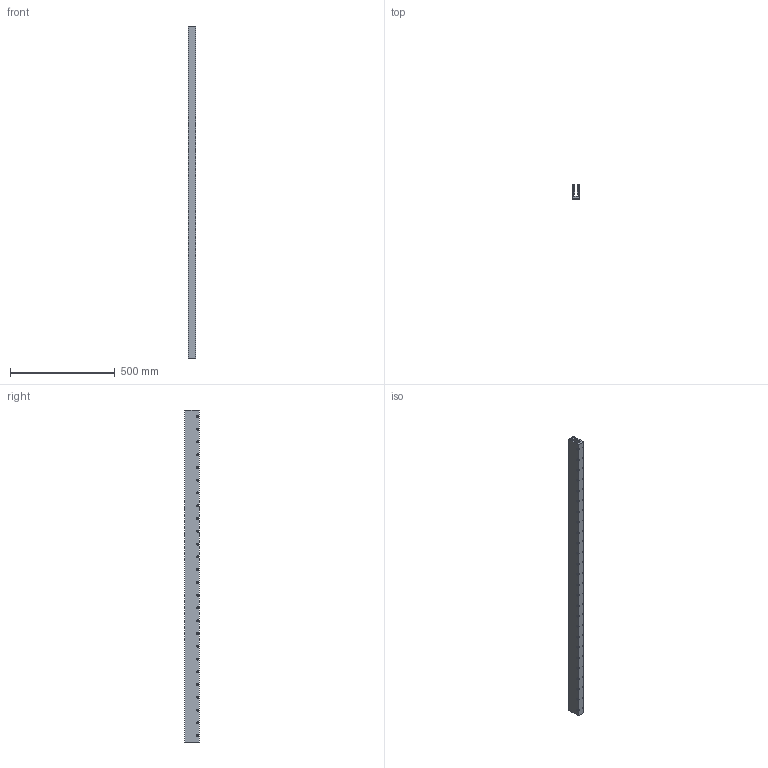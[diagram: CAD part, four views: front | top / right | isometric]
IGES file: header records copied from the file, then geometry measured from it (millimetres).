
Global section: file name: No Iges File Name specified; native system: Autodesk Inventor 2012; preprocessor: AutoDesk Inventor Iges Exporter R2012; author: je17857; date: 20120511.155909; units: inch
Bounding box: 34.29 x 67.31 x 1584.71 mm (x, y, z)
Volume: 2356486.6 mm3; surface area: 599628.3 mm2
Topology: 1 solids, 1 shells, 660 faces, 1506 edges, 1004 vertices
Faces by surface type: plane 582, revolution 78
